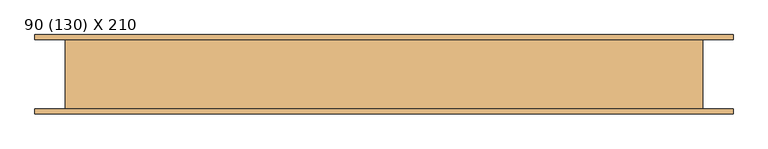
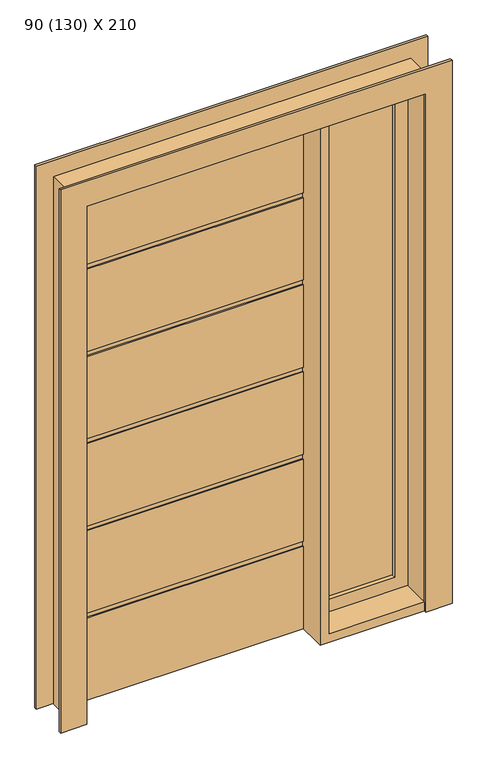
"""IFC4 building model written with IfcOpenShell, lengths in millimetres: door geometry, PORTA PIVOTANTE - 1 FOLHA + LUZ LATERAL - 1 FOLHA : 90 (130) X 210."""

from ifc_helpers import new_model, si_unit, frame, origin, place, context, project, spatial, polyline, outline, extrude, source, transform, mapped, element, save


def door_90_130_x_210_82204c14(model_context):
    return source(origin(), model_context, "Body", "SweptSolid", [
        extrude(outline(polyline([(580.0, 52.0), (315.0, 52.0), (315.0, 58.0), (580.0, 58.0), (580.0, 52.0)])), frame((0.0, 0.0, 85.0), z_axis=(0.0, 0.0, 1.0), x_axis=(1.0, 0.0, 0.0)), (0.0, 0.0, 1.0), 1965.0),
        extrude(outline(polyline([(2100.0, 630.0), (2100.0, 265.0), (35.0, 265.0), (35.0, 630.0), (2100.0, 630.0)]), holes=[polyline([(2050.0, 580.0), (85.0, 580.0), (85.0, 315.0), (2050.0, 315.0), (2050.0, 580.0)])]), frame((0.0, 35.0, 0.0), z_axis=(0.0, 1.0, 0.0), x_axis=(0.0, 0.0, 1.0)), (0.0, 0.0, 1.0), 40.0),
        extrude(outline(polyline([(75.0, 2100.0), (75.0, 1766.6666667), (70.0, 1766.6666667), (70.0, 1746.6666667), (75.0, 1746.6666667), (75.0, 1413.3333333), (70.0, 1413.3333333), (70.0, 1393.3333333), (75.0, 1393.3333333), (75.0, 1060.0), (70.0, 1060.0), (70.0, 1040.0), (75.0, 1040.0), (75.0, 706.6666667), (70.0, 706.6666667), (70.0, 686.6666667), (75.0, 686.6666667), (75.0, 353.3333333), (70.0, 353.3333333), (70.0, 333.3333333), (75.0, 333.3333333), (75.0, 0.0), (35.0, 0.0), (35.0, 333.3333333), (40.0, 333.3333333), (40.0, 353.3333333), (35.0, 353.3333333), (35.0, 686.6666667), (40.0, 686.6666667), (40.0, 706.6666667), (35.0, 706.6666667), (35.0, 1040.0), (40.0, 1040.0), (40.0, 1060.0), (35.0, 1060.0), (35.0, 1393.3333333), (40.0, 1393.3333333), (40.0, 1413.3333333), (35.0, 1413.3333333), (35.0, 1746.6666667), (40.0, 1746.6666667), (40.0, 1766.6666667), (35.0, 1766.6666667), (35.0, 2100.0), (75.0, 2100.0)])), frame((-670.0, 0.0, 0.0), z_axis=(1.0, 0.0, 0.0), x_axis=(0.0, 1.0, 0.0)), (0.0, 0.0, 1.0), 900.0),
        extrude(outline(polyline([(2100.0, 630.0), (0.0, 630.0), (0.0, 730.0), (2200.0, 730.0), (2200.0, -770.0), (0.0, -770.0), (0.0, -670.0), (2100.0, -670.0), (2100.0, 630.0)])), frame((0.0, -85.0, 0.0), z_axis=(0.0, 1.0, 0.0), x_axis=(0.0, 0.0, 1.0)), (0.0, 0.0, 1.0), 10.0),
        extrude(outline(polyline([(2100.0, -670.0), (2100.0, 630.0), (0.0, 630.0), (0.0, 730.0), (2200.0, 730.0), (2200.0, -770.0), (0.0, -770.0), (0.0, -670.0), (2100.0, -670.0)])), frame((0.0, 75.0, 0.0), z_axis=(0.0, 1.0, 0.0), x_axis=(0.0, 0.0, 1.0)), (0.0, 0.0, 1.0), 10.0),
        extrude(outline(polyline([(0.0, 230.0), (0.0, 665.0), (2135.0, 665.0), (2135.0, -705.0), (0.0, -705.0), (0.0, -670.0), (2100.0, -670.0), (2100.0, 230.0), (0.0, 230.0)]), holes=[polyline([(35.0, 265.0), (2100.0, 265.0), (2100.0, 630.0), (35.0, 630.0), (35.0, 265.0)])]), frame((0.0, -75.0, 0.0), z_axis=(0.0, 1.0, 0.0), x_axis=(0.0, 0.0, 1.0)), (0.0, 0.0, 1.0), 150.0),
    ])


if __name__ == "__main__":
    model = new_model("IFC4")
    model_context = context("Model", 3, world=origin())
    ifc_project = project(units=[si_unit("LENGTHUNIT", "METRE", prefix="MILLI")], contexts=[model_context])
    site = spatial("IfcSite", under=ifc_project)
    building = spatial("IfcBuilding", under=site)
    placement = place(None, origin())
    door_90_130_x_210_shape = door_90_130_x_210_82204c14(model_context)
    element("IfcDoor", 1, ObjectType="PORTA PIVOTANTE - 1 FOLHA + LUZ LATERAL - 1 FOLHA : 90 (130) X 210", at=placement, inside=building, context=model_context, shape_type="MappedRepresentation", body=[
        mapped(door_90_130_x_210_shape, transform((0.0, 0.0, 0.0), x_axis=(1.0, 0.0, 0.0), y_axis=(0.0, 1.0, 0.0), z_axis=(0.0, 0.0, 1.0))),
    ])
    save(model, "model.ifc")
